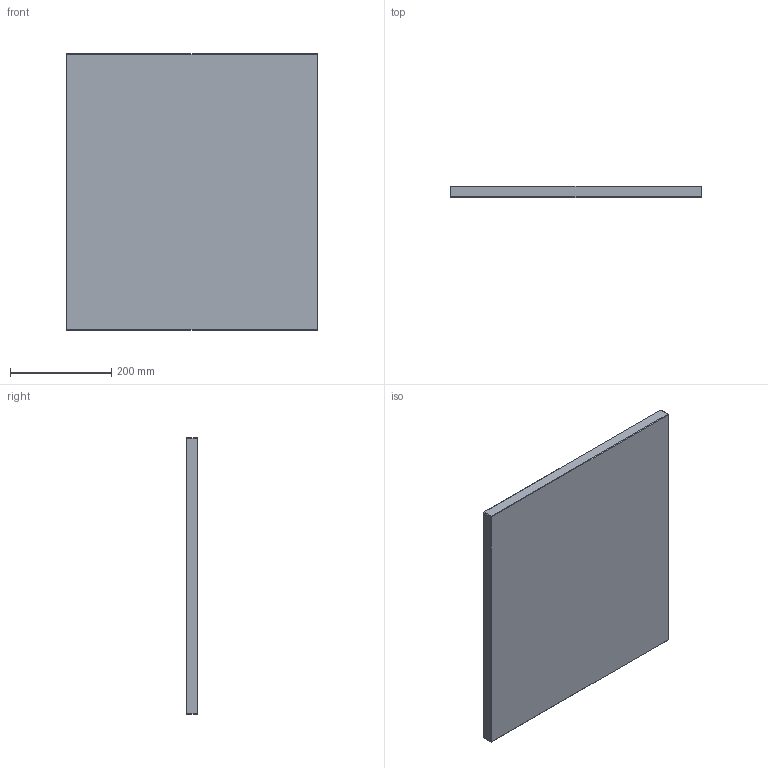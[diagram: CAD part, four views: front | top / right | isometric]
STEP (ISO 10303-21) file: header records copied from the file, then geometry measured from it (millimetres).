
FILE_DESCRIPTION (( 'STEP AP214' ), '1' );
FILE_NAME ('CPE-P-496x546x22.STEP', '2020-04-07T09:28:11', ( 'August' ), ( '' ), 'SwSTEP 2.0', 'SolidWorks 2018', '' );
FILE_SCHEMA (( 'AUTOMOTIVE_DESIGN' ));
Length unit declared in the file: millimetre
Products named in the file (1): CPE-P-496x546x22
Bounding box: 496 x 22 x 546 mm (x, y, z)
Volume: 5955829.3 mm3; surface area: 584983.9 mm2
Topology: 1 solids, 1 shells, 26 faces, 48 edges, 24 vertices
Faces by surface type: plane 26
Entity records: 634 total; most frequent: DIRECTION 102, CARTESIAN_POINT 99, ORIENTED_EDGE 96, VECTOR 48, LINE 48, EDGE_CURVE 48, AXIS2_PLACEMENT_3D 27, PLANE 26
